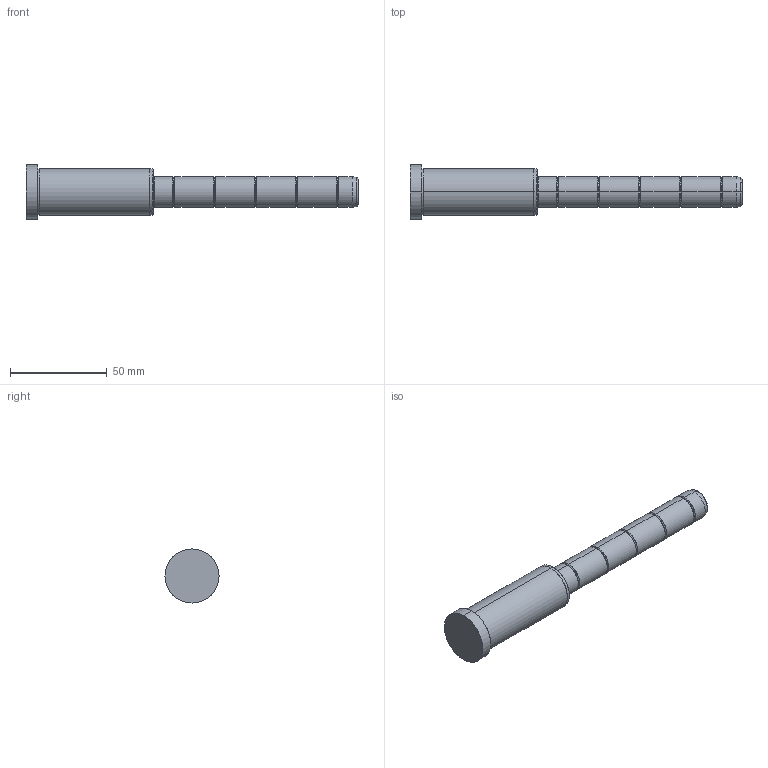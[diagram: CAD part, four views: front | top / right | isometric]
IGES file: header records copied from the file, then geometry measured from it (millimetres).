
Start section: SolidWorks IGES file using analytic representation for surfaces
Global section: file name: C:\Documents and Settings\kalite-mail\Desktop\IGS\D02\16\D02 - 16x66x106.IGS; native system: SolidWorks 2008; preprocessor: SolidWorks 2008; author: kalite-mail; date: 080616.144541; units: millimetre
Bounding box: 172 x 28 x 28 mm (x, y, z)
Surface area: 11659.7 mm2 (no closed solid volume)
Topology: 0 solids, 0 shells, 54 faces, 576 edges, 576 vertices
Faces by surface type: bspline 30, revolution 24
